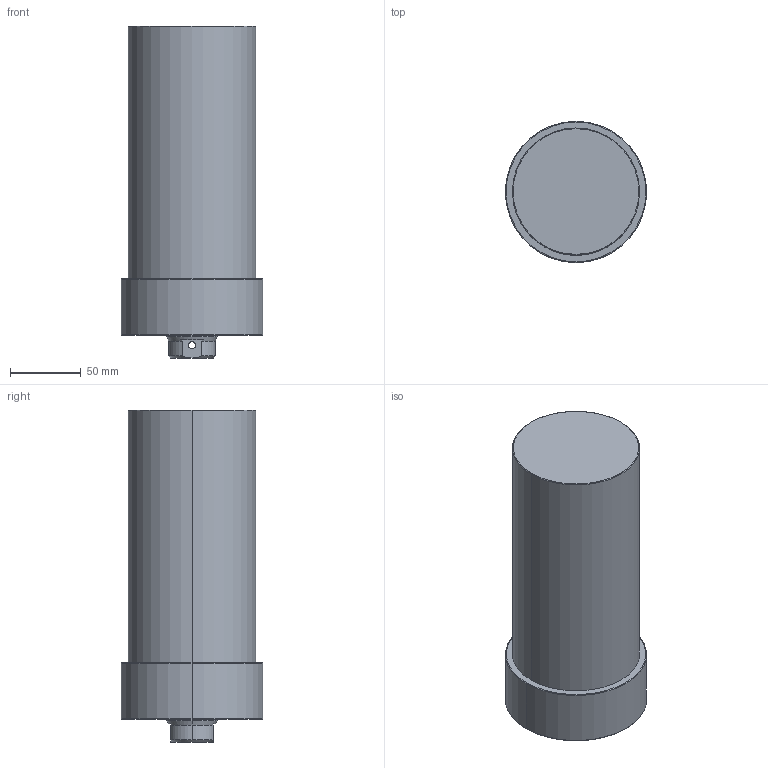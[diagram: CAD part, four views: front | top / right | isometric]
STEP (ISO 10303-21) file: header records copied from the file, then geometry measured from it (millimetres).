
FILE_DESCRIPTION (( 'STEP AP203' ), '1' );
FILE_NAME ('CLLU-090GB-135.STEP', '2020-01-13T05:56:08', ( '' ), ( '' ), 'SwSTEP 2.0', 'SolidWorks 2015', '' );
FILE_SCHEMA (( 'CONFIG_CONTROL_DESIGN' ));
Length unit declared in the file: millimetre
Products named in the file (1): CLLU-090GB-135
Bounding box: 100 x 100 x 235 mm (x, y, z)
Volume: 1446397 mm3; surface area: 86211.2 mm2
Topology: 1 solids, 1 shells, 68 faces, 155 edges, 88 vertices
Faces by surface type: cylinder 27, cone 25, plane 10, torus 6
Entity records: 2061 total; most frequent: CARTESIAN_POINT 462, DIRECTION 350, ORIENTED_EDGE 290, AXIS2_PLACEMENT_3D 148, EDGE_CURVE 145, VERTEX_POINT 88, EDGE_LOOP 81, CIRCLE 79
